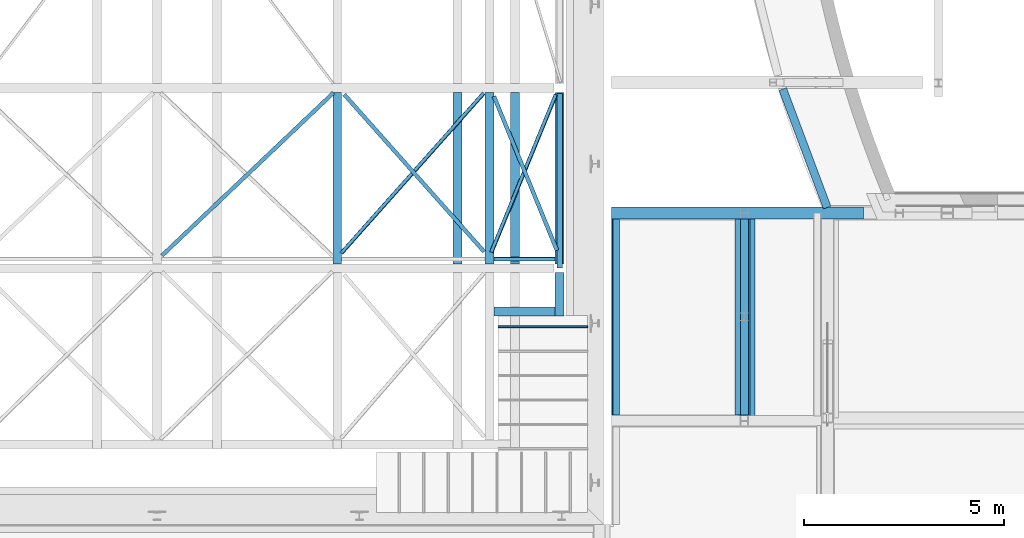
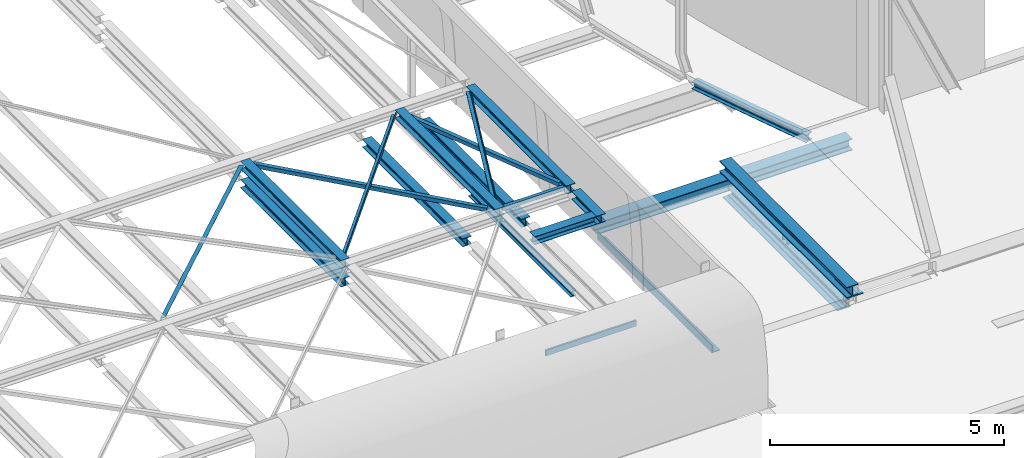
# One storey, part 13 of 38: 21 beams.
"""IFC2X3 building model written with IfcOpenShell, lengths in millimetres."""

import ifcopenshell
import ifcopenshell.guid

model = None  # the IFC model being written
_history = None  # IfcOwnerHistory: only IFC2X3 demands one
_inside = {}  # id of a spatial element -> (the spatial element, [elements in it])
_under = {}  # id of a project, library or spatial element -> (it, [spatial elements below it])
_declared = {}  # id of a project -> (the project, [libraries it declares])
_typed = {}  # id of a type object -> (the type object, [elements of that type])
_made_of = {}  # id of a material, layer set ... -> (it, [elements and type objects made of it])


def new_model(schema):
    """Start an empty IFC model of exactly this schema.

    Asked for "IFC4X3", IfcOpenShell would pick the latest addendum, in which some entities
    have other attributes; the version numbers below select the first issue.
    IFC2X3 requires an IfcOwnerHistory on every rooted entity: one is made here for all.
    """
    global model, _history
    if schema == "IFC4X3":
        model = ifcopenshell.file(schema_version=(4, 3, 0, 0))
    else:
        model = ifcopenshell.file(schema=schema)
    _inside.clear()
    _under.clear()
    _declared.clear()
    _typed.clear()
    _made_of.clear()
    _history = None
    if model.schema == "IFC2X3":
        org = make("IfcOrganization", Name="unknown")
        user = make(
            "IfcPersonAndOrganization",
            ThePerson=make("IfcPerson", FamilyName="unknown"),
            TheOrganization=org,
        )
        app = make(
            "IfcApplication",
            ApplicationDeveloper=org,
            Version="unknown",
            ApplicationFullName="unknown",
            ApplicationIdentifier="unknown",
        )
        _history = make(
            "IfcOwnerHistory",
            OwningUser=user,
            OwningApplication=app,
            ChangeAction="ADDED",
            CreationDate=0,
        )
    return model


def make(cls, **values):
    """One entity of the class cls with the attributes given. An attribute that is None is left unset."""
    return model.create_entity(
        cls, **{name: value for name, value in values.items() if value is not None}
    )


def entity(cls, *values):
    """Any entity or typed value of the class cls, its attributes in the order of the schema. None: left unset."""
    e = model.create_entity(cls)
    for i, value in enumerate(values):
        if value is not None:
            e[i] = value
    return e


def rooted(cls, **values):
    """An entity with a GlobalId (a new one), such as an element, a storey or a relation."""
    return make(cls, GlobalId=ifcopenshell.guid.new(), OwnerHistory=_history, **values)


def si_unit(unit_type, name, prefix=None):
    """IfcSIUnit, for example si_unit("LENGTHUNIT", "METRE", prefix="MILLI")."""
    return make("IfcSIUnit", UnitType=unit_type, Prefix=prefix, Name=name)


def converted_unit(unit_type, name, factor, base, dimensions=None, offset=None):
    """IfcConversionBasedUnit, such as the inch: factor (a typed value) times the base unit."""
    return make(
        "IfcConversionBasedUnit"
        if offset is None
        else "IfcConversionBasedUnitWithOffset",
        ConversionOffset=offset,
        Dimensions=None
        if dimensions is None
        else entity("IfcDimensionalExponents", *dimensions),
        UnitType=unit_type,
        Name=name,
        ConversionFactor=make(
            "IfcMeasureWithUnit", ValueComponent=factor, UnitComponent=base
        ),
    )


def derived_unit(unit_type, elements):
    """IfcDerivedUnit: a product of units, each with its exponent."""
    return make(
        "IfcDerivedUnit",
        Elements=[
            make("IfcDerivedUnitElement", Unit=unit, Exponent=power)
            for unit, power in elements
        ],
        UnitType=unit_type,
    )


def assignment(units):
    """IfcUnitAssignment: the units of a project."""
    return None if units is None else make("IfcUnitAssignment", Units=units)


def point(xyz):
    """IfcCartesianPoint."""
    return None if xyz is None else make("IfcCartesianPoint", Coordinates=xyz)


def direction(xyz):
    """IfcDirection."""
    return None if xyz is None else make("IfcDirection", DirectionRatios=xyz)


def frame(location, z_axis=None, x_axis=None):
    """IfcAxis2Placement3D, a coordinate frame: its origin and axes. An axis left out is left unset."""
    return make(
        "IfcAxis2Placement3D",
        Location=point(location),
        Axis=direction(z_axis),
        RefDirection=direction(x_axis),
    )


def frame_2d(location, x_axis=None):
    """IfcAxis2Placement2D, a coordinate frame in the plane: its origin and x axis."""
    return make(
        "IfcAxis2Placement2D", Location=point(location), RefDirection=direction(x_axis)
    )


def origin():
    """The frame at (0, 0, 0) with its axes left unset."""
    return frame((0.0, 0.0, 0.0))


def place(relative_to, where):
    """IfcLocalPlacement: puts the frame where relative to a parent placement (None: the world)."""
    return make(
        "IfcLocalPlacement", PlacementRelTo=relative_to, RelativePlacement=where
    )


def context(
    kind, dimensions, precision=None, world=None, true_north=None, identifier=None
):
    """IfcGeometricRepresentationContext, for example the 3D "Model" context."""
    return make(
        "IfcGeometricRepresentationContext",
        ContextIdentifier=identifier,
        ContextType=kind,
        CoordinateSpaceDimension=dimensions,
        Precision=precision,
        WorldCoordinateSystem=world,
        TrueNorth=true_north,
    )


def subcontext(parent, identifier, kind, view, scale=None):
    """IfcGeometricRepresentationSubContext, for example "Body" below "Model"."""
    return make(
        "IfcGeometricRepresentationSubContext",
        ContextIdentifier=identifier,
        ContextType=kind,
        ParentContext=parent,
        TargetScale=scale,
        TargetView=view,
    )


def project(units=None, contexts=None):
    """IfcProject with its units and contexts."""
    return rooted(
        "IfcProject",
        Name="project",
        RepresentationContexts=contexts,
        UnitsInContext=assignment(units),
    )


def spatial(cls, under=None, at=None, **own):
    """A site, building, storey or space (cls), placed at a placement, below another one or the project."""
    s = rooted(cls, ObjectPlacement=at, **own)
    if under is not None:
        _under.setdefault(under.id(), (under, []))[1].append(s)
    return s


def polyline(points):
    """IfcPolyline through the points."""
    return make("IfcPolyline", Points=[point(p) for p in points])


def circle_curve(where, radius):
    """IfcCircle in the frame where."""
    return make("IfcCircle", Position=where, Radius=radius)


def parameter(value):
    """IfcParameterValue: where a trimmed curve begins or ends, as a parameter of its basis curve."""
    return model.create_entity("IfcParameterValue", value)


def trimmed(basis, trim1, trim2, sense, master):
    """IfcTrimmedCurve: the piece of a basis curve between two trims."""
    return make(
        "IfcTrimmedCurve",
        BasisCurve=basis,
        Trim1=trim1,
        Trim2=trim2,
        SenseAgreement=sense,
        MasterRepresentation=master,
    )


def segment(curve, same_sense, transition):
    """IfcCompositeCurveSegment."""
    return make(
        "IfcCompositeCurveSegment",
        Transition=transition,
        SameSense=same_sense,
        ParentCurve=curve,
    )


def composite_curve(segments, self_intersect=None):
    """IfcCompositeCurve: segments joined end to end."""
    return make("IfcCompositeCurve", Segments=segments, SelfIntersect=self_intersect)


def profile(cls, at=None, kind="AREA", **sizes):
    """A parametric profile (cls). Its sizes go by their IFC names, for example OverallWidth=200.0."""
    return make(cls, ProfileType=kind, Position=at, **sizes)


def rectangle(**sizes):
    """IfcRectangleProfileDef."""
    return profile("IfcRectangleProfileDef", **sizes)


def i_section(**sizes):
    """IfcIShapeProfileDef."""
    return profile("IfcIShapeProfileDef", **sizes)


def outline(outer, holes=None, kind="AREA"):
    """IfcArbitraryClosedProfileDef: a profile drawn as a closed curve; with holes, ...WithVoids."""
    if holes is None:
        return make("IfcArbitraryClosedProfileDef", ProfileType=kind, OuterCurve=outer)
    return make(
        "IfcArbitraryProfileDefWithVoids",
        ProfileType=kind,
        OuterCurve=outer,
        InnerCurves=holes,
    )


def extrude(swept, where, along, depth):
    """IfcExtrudedAreaSolid: the profile swept, set in the frame where, extruded along a direction by depth."""
    return make(
        "IfcExtrudedAreaSolid",
        SweptArea=swept,
        Position=where,
        ExtrudedDirection=direction(along),
        Depth=depth,
    )


def shape(context_of_items, identifier, shape_type, items):
    """IfcShapeRepresentation: the items that make up one representation, for example the "Body"."""
    return make(
        "IfcShapeRepresentation",
        ContextOfItems=context_of_items,
        RepresentationIdentifier=identifier,
        RepresentationType=shape_type,
        Items=items,
    )


def source(mapping_origin, context_of_items, identifier, shape_type, items):
    """IfcRepresentationMap: a shape defined once, which mapped items show again and again."""
    return make(
        "IfcRepresentationMap",
        MappingOrigin=mapping_origin,
        MappedRepresentation=shape(context_of_items, identifier, shape_type, items),
    )


def transform(
    local_origin,
    x_axis=None,
    y_axis=None,
    z_axis=None,
    scale=None,
    scale2=None,
    scale3=None,
    uniform=True,
):
    """IfcCartesianTransformationOperator3D, or its non-uniform kind. x_axis, y_axis, z_axis: its Axis1, 2, 3."""
    if uniform:
        return make(
            "IfcCartesianTransformationOperator3D",
            Axis1=direction(x_axis),
            Axis2=direction(y_axis),
            LocalOrigin=point(local_origin),
            Scale=scale,
            Axis3=direction(z_axis),
        )
    return make(
        "IfcCartesianTransformationOperator3DnonUniform",
        Axis1=direction(x_axis),
        Axis2=direction(y_axis),
        LocalOrigin=point(local_origin),
        Scale=scale,
        Axis3=direction(z_axis),
        Scale2=scale2,
        Scale3=scale3,
    )


def mapped(mapping_source, mapping_target):
    """IfcMappedItem: shows the shape of a source again, moved by a transform."""
    return make(
        "IfcMappedItem", MappingSource=mapping_source, MappingTarget=mapping_target
    )


def material(Name=None, Category=None):
    """IfcMaterial."""
    return make("IfcMaterial", Name=Name, Category=Category)


def material_list(materials):
    """IfcMaterialList."""
    return make("IfcMaterialList", Materials=materials)


def made_of(thing, what):
    """Note that an element or type object is made of a material, layer set ...; save() writes the relation."""
    if what is not None:
        _made_of.setdefault(what.id(), (what, []))[1].append(thing)
    return thing


def type_object(cls, material=None, **own):
    """A type object (cls), such as IfcWallType, which elements share."""
    return made_of(rooted(cls, **own), material)


def type_shapes(of_type, sources):
    """Give a type object the sources (RepresentationMaps) that its elements show as mapped items."""
    of_type.RepresentationMaps = sources


def element(
    cls,
    number,
    at=None,
    inside=None,
    cuts=None,
    type_object=None,
    material=None,
    context=None,
    identifier="Body",
    shape_type=None,
    held_by="IfcProductDefinitionShape",
    body=None,
    shapes=None,
    **own,
):
    """One element of the class cls, such as IfcWall. Its Tag is "e" and its number.

    at: its placement. inside: the storey or other place that contains it. cuts: it is an
    opening in that element (IfcRelVoidsElement). A single representation is given by context,
    identifier, shape_type and body (its items); several are given by shapes. held_by: the class
    of the entity that holds the representations. save() writes the other relations.
    """
    e = rooted(cls, Tag="e%d" % number, ObjectPlacement=at, **own)
    if body is not None:
        shapes = [shape(context, identifier, shape_type, body)]
    if shapes is not None:
        e.Representation = make(held_by, Representations=shapes)
    if inside is not None:
        _inside.setdefault(inside.id(), (inside, []))[1].append(e)
    if cuts is not None:
        rooted(
            "IfcRelVoidsElement", RelatingBuildingElement=cuts, RelatedOpeningElement=e
        )
    if type_object is not None:
        _typed.setdefault(type_object.id(), (type_object, []))[1].append(e)
    return made_of(e, material)


def aggregate(whole, parts):
    """IfcRelAggregates: a whole, such as a stair, and the parts it consists of."""
    return rooted("IfcRelAggregates", RelatingObject=whole, RelatedObjects=parts)


def save(model, path):
    """Write the relations noted so far, then the file.

    IfcRelAggregates (storeys below a building ...), IfcRelContainedInSpatialStructure (elements
    in a storey), IfcRelDefinesByType, IfcRelAssociatesMaterial and IfcRelDeclares: one each for
    every whole, place, type object, material and project.
    """
    for whole, parts in _under.values():
        aggregate(whole, parts)
    for where, things in _inside.values():
        rooted(
            "IfcRelContainedInSpatialStructure",
            RelatedElements=things,
            RelatingStructure=where,
        )
    for kind, things in _typed.values():
        rooted("IfcRelDefinesByType", RelatedObjects=things, RelatingType=kind)
    for what, things in _made_of.values():
        rooted("IfcRelAssociatesMaterial", RelatedObjects=things, RelatingMaterial=what)
    for by, libraries in _declared.values():
        rooted("IfcRelDeclares", RelatingContext=by, RelatedDefinitions=libraries)
    model.write(path)


model = new_model("IFC2X3")

# Units and contexts
model_context = context("Model", 3, precision=0.01, world=origin(), true_north=direction((6.12303176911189e-17, 1.0)))
body_context = subcontext(model_context, "Body", "Model", "MODEL_VIEW")
ifc_project = project(units=[si_unit("LENGTHUNIT", "METRE", prefix="MILLI"), si_unit("AREAUNIT", "SQUARE_METRE", prefix="MILLI"), si_unit("VOLUMEUNIT", "CUBIC_METRE"), converted_unit("PLANEANGLEUNIT", "DEGREE", entity("IfcRatioMeasure", 0.0174532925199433), si_unit("PLANEANGLEUNIT", "RADIAN"), dimensions=[0, 0, 0, 0, 0, 0, 0]), si_unit("MASSUNIT", "GRAM", prefix="KILO"), derived_unit("MASSDENSITYUNIT", [(si_unit("MASSUNIT", "GRAM", prefix="KILO"), 1), (si_unit("LENGTHUNIT", "METRE"), -3)]), derived_unit("MOMENTOFINERTIAUNIT", [(si_unit("LENGTHUNIT", "METRE"), 4)]), si_unit("TIMEUNIT", "SECOND"), si_unit("FREQUENCYUNIT", "HERTZ"), si_unit("THERMODYNAMICTEMPERATUREUNIT", "DEGREE_CELSIUS"), derived_unit("THERMALTRANSMITTANCEUNIT", [(si_unit("MASSUNIT", "GRAM", prefix="KILO"), 1), (si_unit("THERMODYNAMICTEMPERATUREUNIT", "KELVIN"), -1), (si_unit("TIMEUNIT", "SECOND"), -3)]), derived_unit("VOLUMETRICFLOWRATEUNIT", [(si_unit("LENGTHUNIT", "METRE"), 3), (si_unit("TIMEUNIT", "SECOND"), -1)]), si_unit("ELECTRICCURRENTUNIT", "AMPERE"), si_unit("ELECTRICVOLTAGEUNIT", "VOLT"), si_unit("POWERUNIT", "WATT"), si_unit("FORCEUNIT", "NEWTON", prefix="KILO"), si_unit("ILLUMINANCEUNIT", "LUX"), si_unit("LUMINOUSFLUXUNIT", "LUMEN"), si_unit("LUMINOUSINTENSITYUNIT", "CANDELA"), derived_unit("USERDEFINED", [(si_unit("MASSUNIT", "GRAM", prefix="KILO"), -1), (si_unit("LENGTHUNIT", "METRE"), -2), (si_unit("TIMEUNIT", "SECOND"), 3), (si_unit("LUMINOUSFLUXUNIT", "LUMEN"), 1)]), derived_unit("LINEARVELOCITYUNIT", [(si_unit("LENGTHUNIT", "METRE"), 1), (si_unit("TIMEUNIT", "SECOND"), -1)]), si_unit("PRESSUREUNIT", "PASCAL"), derived_unit("USERDEFINED", [(si_unit("LENGTHUNIT", "METRE"), -2), (si_unit("MASSUNIT", "GRAM", prefix="KILO"), 1), (si_unit("TIMEUNIT", "SECOND"), -2)]), derived_unit("LINEARFORCEUNIT", [(si_unit("MASSUNIT", "GRAM", prefix="KILO"), 1), (si_unit("LENGTHUNIT", "METRE"), 1), (si_unit("TIMEUNIT", "SECOND"), -2), (si_unit("LENGTHUNIT", "METRE"), -1)]), derived_unit("PLANARFORCEUNIT", [(si_unit("MASSUNIT", "GRAM", prefix="KILO"), 1), (si_unit("LENGTHUNIT", "METRE"), 1), (si_unit("TIMEUNIT", "SECOND"), -2), (si_unit("LENGTHUNIT", "METRE"), -2)])], contexts=[model_context])

# Site, building, storey
site_placement = place(None, origin())
site = spatial("IfcSite", under=ifc_project, at=site_placement, Name="Theater aan de Parade", CompositionType="ELEMENT")
building_placement = place(site_placement, origin())
building = spatial("IfcBuilding", under=site, at=building_placement, Name="Theater aan de Parade", CompositionType="ELEMENT")
storey_placement = place(building_placement, frame((0.0, 0.0, 12480.0)))
storey = spatial("IfcBuildingStorey", under=building, at=storey_placement, Name="03 derde verdieping", CompositionType="ELEMENT", Elevation=12480.0)

# Beams
ifc_material_1 = material(Name="00_PBT_MAT_staal_S355")
beam_type_1 = type_object("IfcBeamType", Name="28_PBT_SF_staal_H-profiel:S355_HE220A", PredefinedType="NOTDEFINED")
beam_1_placement = place(storey_placement, frame((36153.8581300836, 23458.2922984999, 1930.0), z_axis=(0.0, 0.0, 1.0), x_axis=(0.0, -1.0, 0.0)))
element("IfcBeam", 1, at=beam_1_placement, inside=storey, type_object=beam_type_1, material=ifc_material_1, Name="28_PBT_SF_staal_H-profiel:S355_HE220A", ObjectType="28_PBT_SF_staal_H-profiel:S355_HE220A", context=body_context, shape_type="SweptSolid", body=[
    extrude(i_section(OverallWidth=219.999999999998, OverallDepth=210.0, WebThickness=7.00000000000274, FlangeThickness=10.9999999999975, FilletRadius=18.0000000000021, at=frame_2d((0.0, 2.16715534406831e-12), x_axis=(0.0, 1.0))), frame((0.0, 0.0, -105.0), z_axis=(1.0, 0.0, 0.0), x_axis=(0.0, 0.0, -1.0)), (0.0, 0.0, 1.0), 4280.00000000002),
])
beam_2_placement = place(storey_placement, frame((36153.8581300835, 18958.2922984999, 1930.0), z_axis=(0.0, 0.0, 1.0), x_axis=(0.0, -1.0, 0.0)))
element("IfcBeam", 2, at=beam_2_placement, inside=storey, type_object=beam_type_1, material=ifc_material_1, Name="28_PBT_SF_staal_H-profiel:S355_HE220A", ObjectType="28_PBT_SF_staal_H-profiel:S355_HE220A", context=body_context, shape_type="SweptSolid", body=[
    extrude(i_section(OverallWidth=220.000000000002, OverallDepth=210.0, WebThickness=7.00000000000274, FlangeThickness=10.9999999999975, FilletRadius=18.0000000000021, at=frame_2d((0.0, 2.16715534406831e-12), x_axis=(0.0, 1.0))), frame((0.0, 0.0, -105.0), z_axis=(1.0, 0.0, 0.0), x_axis=(0.0, 0.0, -1.0)), (0.0, 0.0, 1.0), 1076.98459113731),
])
beam_3_placement = place(storey_placement, frame((36043.8581300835, 17991.3077073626, 1930.0), z_axis=(0.0, 0.0, 1.0), x_axis=(-1.0, 0.0, 0.0)))
element("IfcBeam", 3, at=beam_3_placement, inside=storey, type_object=beam_type_1, material=ifc_material_1, Name="28_PBT_SF_staal_H-profiel:S355_HE220A", ObjectType="28_PBT_SF_staal_H-profiel:S355_HE220A", context=body_context, shape_type="SweptSolid", body=[
    extrude(i_section(OverallWidth=220.000000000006, OverallDepth=210.0, WebThickness=6.99999999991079, FlangeThickness=10.9999999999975, FilletRadius=18.0000000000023, at=frame_2d((0.0, -3.24718030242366e-12), x_axis=(0.0, 1.0))), frame((0.0, 0.0, -105.0), z_axis=(1.0, 0.0, 0.0), x_axis=(0.0, 0.0, -1.0)), (0.0, 0.0, 1.0), 1530.00112758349),
])
beam_4_placement = place(storey_placement, frame((30603.8570025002, 23458.2922984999, 1930.0), z_axis=(0.0, 0.0, 1.0), x_axis=(0.0, -1.0, 0.0)))
element("IfcBeam", 4, at=beam_4_placement, inside=storey, type_object=beam_type_1, material=ifc_material_1, Name="28_PBT_SF_staal_H-profiel:S355_HE220A", ObjectType="28_PBT_SF_staal_H-profiel:S355_HE220A", context=body_context, shape_type="SweptSolid", body=[
    extrude(i_section(OverallWidth=219.999999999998, OverallDepth=210.0, WebThickness=7.00000000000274, FlangeThickness=10.9999999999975, FilletRadius=18.0000000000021, at=frame_2d((0.0, 2.16715534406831e-12), x_axis=(0.0, 1.0))), frame((0.0, 0.0, -105.0), z_axis=(1.0, 0.0, 0.0), x_axis=(0.0, 0.0, -1.0)), (0.0, 0.0, 1.0), 4280.00000000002),
])
beam_5_placement = place(storey_placement, frame((34405.85634631, 23458.2922984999, 1930.0), z_axis=(0.0, 0.0, 1.0), x_axis=(0.0, -1.0, 0.0)))
element("IfcBeam", 5, at=beam_5_placement, inside=storey, type_object=beam_type_1, material=ifc_material_1, Name="28_PBT_SF_staal_H-profiel:S355_HE220A", ObjectType="28_PBT_SF_staal_H-profiel:S355_HE220A", context=body_context, shape_type="SweptSolid", body=[
    extrude(i_section(OverallWidth=219.999999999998, OverallDepth=210.0, WebThickness=7.00000000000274, FlangeThickness=10.9999999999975, FilletRadius=18.0000000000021, at=frame_2d((0.0, -6.50146603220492e-12), x_axis=(0.0, 1.0))), frame((0.0, 0.0, -105.0), z_axis=(1.0, 0.0, 0.0), x_axis=(0.0, 0.0, -1.0)), (0.0, 0.0, 1.0), 4280.00000000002),
])
for number, where, z_axis, x_axis in (
    (6, (35043.8557463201, 23458.2922984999, 1930.0), (0.0, 0.0, 1.0), (0.0, -1.0, 0.0)),
    (7, (30603.8570025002, 23458.2922985, 1930.0), (0.0, 0.0, 1.0), (0.0, -1.0, 0.0)),
):
    element("IfcBeam", number, at=place(storey_placement, frame(where, z_axis=z_axis, x_axis=x_axis)), inside=storey, type_object=beam_type_1, material=ifc_material_1, Name="28_PBT_SF_staal_H-profiel:S355_HE220A", ObjectType="28_PBT_SF_staal_H-profiel:S355_HE220A", context=body_context, shape_type="SweptSolid", body=[
        extrude(i_section(OverallWidth=219.999999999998, OverallDepth=210.0, WebThickness=7.00000000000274, FlangeThickness=10.9999999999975, FilletRadius=18.0000000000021, at=frame_2d((-2.16715534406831e-12, 6.50146603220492e-12), x_axis=(0.0, 1.0))), frame((0.0, 0.0, -585.0), z_axis=(1.0, 0.0, 0.0), x_axis=(0.0, 0.0, -1.0)), (0.0, 0.0, 1.0), 4280.00000000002),
    ])
beam_6_placement = place(storey_placement, frame((33603.8563463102, 23458.2922985, 1930.0), z_axis=(0.0, 0.0, 1.0), x_axis=(0.0, -1.0, 0.0)))
element("IfcBeam", 8, at=beam_6_placement, inside=storey, type_object=beam_type_1, material=ifc_material_1, Name="28_PBT_SF_staal_H-profiel:S355_HE220A", ObjectType="28_PBT_SF_staal_H-profiel:S355_HE220A", context=body_context, shape_type="SweptSolid", body=[
    extrude(i_section(OverallWidth=219.999999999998, OverallDepth=210.0, WebThickness=7.00000000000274, FlangeThickness=10.9999999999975, FilletRadius=18.0000000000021, at=frame_2d((-2.16715534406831e-12, 2.16715534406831e-12), x_axis=(0.0, 1.0))), frame((0.0, 0.0, -585.0), z_axis=(1.0, 0.0, 0.0), x_axis=(0.0, 0.0, -1.0)), (0.0, 0.0, 1.0), 4280.00000000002),
])
beam_type_2 = type_object("IfcBeamType", Name="28_PBT_SF_staal_H-profiel:S355_HE140A", PredefinedType="NOTDEFINED")
beam_7_placement = place(storey_placement, frame((36153.8581300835, 19068.2922984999, 0.0), z_axis=(0.0, 0.0, 1.0), x_axis=(0.0, 1.0, 0.0)))
element("IfcBeam", 9, at=beam_7_placement, inside=storey, type_object=beam_type_2, material=ifc_material_1, Name="28_PBT_SF_staal_H-profiel:S355_HE140A", ObjectType="28_PBT_SF_staal_H-profiel:S355_HE140A", context=body_context, shape_type="SweptSolid", body=[
    extrude(outline(composite_curve([segment(polyline([(58.0, -70.0), (66.4999999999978, -70.0)]), True, "CONTINUOUS"), segment(polyline([(66.4999999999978, -70.0), (66.4999999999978, 70.0)]), True, "CONTINUOUS"), segment(polyline([(66.4999999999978, 70.0), (58.0, 70.0)]), True, "CONTINUOUS"), segment(polyline([(58.0, 70.0), (58.0, 14.750000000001)]), True, "CONTINUOUS"), segment(trimmed(circle_curve(frame_2d((46.0, 14.7500000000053), x_axis=(1.0, 0.0)), 12.0000000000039), [parameter(270.000000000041)], [parameter(0.0)], True, "PARAMETER"), False, "CONTINUOUS"), segment(polyline([(46.0, 2.75000000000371), (-46.0, 2.75000000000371)]), True, "CONTINUOUS"), segment(trimmed(circle_curve(frame_2d((-46.0, 14.7500000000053), x_axis=(0.0, -1.0)), 12.0000000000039), [parameter(270.000000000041)], [parameter(0.0)], True, "PARAMETER"), False, "CONTINUOUS"), segment(polyline([(-58.0, 14.750000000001), (-58.0, 70.0)]), True, "CONTINUOUS"), segment(polyline([(-58.0, 70.0), (-66.5000000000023, 70.0)]), True, "CONTINUOUS"), segment(polyline([(-66.5000000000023, 70.0), (-66.5000000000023, -70.0)]), True, "CONTINUOUS"), segment(polyline([(-66.5000000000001, -70.0), (-58.0, -70.0)]), True, "CONTINUOUS"), segment(polyline([(-58.0, -70.0), (-58.0, -14.7499999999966)]), True, "CONTINUOUS"), segment(trimmed(circle_curve(frame_2d((-46.0, -14.750000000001), x_axis=(-1.0, 0.0)), 12.0000000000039), [parameter(270.000000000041)], [parameter(0.0)], True, "PARAMETER"), False, "CONTINUOUS"), segment(polyline([(-46.0, -2.74999999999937), (46.0, -2.74999999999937)]), True, "CONTINUOUS"), segment(trimmed(circle_curve(frame_2d((46.0, -14.750000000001), x_axis=(0.0, 1.0)), 12.0000000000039), [parameter(270.000000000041)], [parameter(0.0)], True, "PARAMETER"), False, "CONTINUOUS"), segment(polyline([(58.0, -14.7499999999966), (58.0, -70.0)]), True, "CONTINUOUS")], self_intersect=False)), frame((0.0, 0.0, -846.500000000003), z_axis=(1.0, 0.0, 0.0), x_axis=(0.0, 0.0, -1.0)), (0.0, 0.0, 1.0), 4360.00000000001),
])
beam_type_3 = type_object("IfcBeamType", Name="28_PBT_SF_staal_H-profiel:S355_HE300B", PredefinedType="NOTDEFINED")
beam_8_placement = place(storey_placement, frame((37453.8581300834, 20445.0, 0.0)))
element("IfcBeam", 10, at=beam_8_placement, inside=storey, type_object=beam_type_3, material=ifc_material_1, Name="28_PBT_SF_staal_H-profiel:S355_HE300B", ObjectType="28_PBT_SF_staal_H-profiel:S355_HE300B", context=body_context, shape_type="SweptSolid", body=[
    extrude(i_section(OverallWidth=300.000000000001, OverallDepth=300.000000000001, WebThickness=11.0000000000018, FlangeThickness=18.9999999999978, FilletRadius=26.9999999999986, at=frame_2d((-2.17426077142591e-12, -2.1600499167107e-12), x_axis=(0.0, 1.0))), frame((0.0, 0.0, -355.0), z_axis=(1.0, 0.0, 0.0), x_axis=(0.0, 0.0, -1.0)), (0.0, 0.0, 1.0), 6283.5510333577),
])
beam_type_4 = type_object("IfcBeamType", Name="28_PBT_SF_staal_L-profiel:S355_L200x200x20", PredefinedType="NOTDEFINED")
beam_9_placement = place(storey_placement, frame((37510.6581300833, 15409.4841107, 0.0), z_axis=(0.0, 0.0, 1.0), x_axis=(0.0, 1.0, 0.0)))
element("IfcBeam", 11, at=beam_9_placement, inside=storey, type_object=beam_type_4, material=ifc_material_1, Name="28_PBT_SF_staal_L-profiel:S355_L200x200x20", ObjectType="28_PBT_SF_staal_L-profiel:S355_L200x200x20", context=body_context, shape_type="SweptSolid", body=[
    extrude(outline(composite_curve([segment(polyline([(64.5555555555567, -124.444444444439), (75.5555555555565, -124.444444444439)]), True, "CONTINUOUS"), segment(polyline([(75.5555555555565, -124.444444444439), (75.5555555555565, 75.5555555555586)]), True, "CONTINUOUS"), segment(polyline([(75.5555555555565, 75.5555555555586), (-124.444444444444, 75.5555555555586)]), True, "CONTINUOUS"), segment(polyline([(-124.444444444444, 75.5555555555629), (-124.444444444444, 64.5555555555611)]), True, "CONTINUOUS"), segment(trimmed(circle_curve(frame_2d((-115.444444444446, 64.5555555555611), x_axis=(-1.0, 0.0)), 8.99999999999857), [parameter(0.0)], [parameter(90.0000000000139)], True, "PARAMETER"), True, "CONTINUOUS"), segment(polyline([(-115.444444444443, 55.5555555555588), (37.5555555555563, 55.5555555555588)]), True, "CONTINUOUS"), segment(trimmed(circle_curve(frame_2d((37.5555555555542, 37.5555555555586), x_axis=(0.0, 1.0)), 18.0000000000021), [parameter(270.000000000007)], [parameter(0.0)], True, "PARAMETER"), False, "CONTINUOUS"), segment(polyline([(55.5555555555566, 37.5555555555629), (55.5555555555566, -115.444444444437)]), True, "CONTINUOUS"), segment(trimmed(circle_curve(frame_2d((64.5555555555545, -115.444444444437), x_axis=(-1.0, 0.0)), 8.99999999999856), [parameter(0.0)], [parameter(90.0000000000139)], True, "PARAMETER"), True, "CONTINUOUS")], self_intersect=False)), frame((0.0, -18.7555555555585, -549.444444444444), z_axis=(1.0, 0.0, 0.0), x_axis=(0.0, 0.0, -1.0)), (0.0, 0.0, 1.0), 4885.51588929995),
])
beam_type_5 = type_object("IfcBeamType", Name="28_PBT_SF_staal_H-profiel:S355_HE200A", PredefinedType="NOTDEFINED")
beam_10_placement = place(storey_placement, frame((42832.2294768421, 20582.8851396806, 0.0), z_axis=(0.0, 0.0, 1.0), x_axis=(-0.350820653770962, 0.936442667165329, 0.0)))
element("IfcBeam", 12, at=beam_10_placement, inside=storey, type_object=beam_type_5, material=ifc_material_1, Name="28_PBT_SF_staal_H-profiel:S355_HE200A", ObjectType="28_PBT_SF_staal_H-profiel:S355_HE200A", context=body_context, shape_type="SweptSolid", body=[
    extrude(outline(composite_curve([segment(polyline([(85.0, -100.0), (95.0, -100.0)]), True, "CONTINUOUS"), segment(polyline([(95.0, -100.0), (95.0, 100.0)]), True, "CONTINUOUS"), segment(polyline([(95.0, 100.0), (85.0, 100.0)]), True, "CONTINUOUS"), segment(polyline([(85.0, 100.0), (85.0, 21.2500000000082)]), True, "CONTINUOUS"), segment(trimmed(circle_curve(frame_2d((67.0, 21.2500000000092), x_axis=(1.0, 0.0)), 18.0000000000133), [parameter(270.000000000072)], [parameter(0.0)], True, "PARAMETER"), False, "CONTINUOUS"), segment(polyline([(67.0, 3.25000000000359), (-67.0, 3.25000000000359)]), True, "CONTINUOUS"), segment(trimmed(circle_curve(frame_2d((-67.0, 21.2500000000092), x_axis=(0.0, -1.0)), 18.0000000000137), [parameter(270.000000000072)], [parameter(0.0)], True, "PARAMETER"), False, "CONTINUOUS"), segment(polyline([(-85.0, 21.2499999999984), (-85.0, 100.0)]), True, "CONTINUOUS"), segment(polyline([(-85.0, 100.0), (-95.0, 100.0)]), True, "CONTINUOUS"), segment(polyline([(-95.0, 100.0), (-95.0, -100.0)]), True, "CONTINUOUS"), segment(polyline([(-95.0, -100.0), (-85.0, -100.0)]), True, "CONTINUOUS"), segment(polyline([(-85.0, -100.0), (-85.0, -21.2499999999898)]), True, "CONTINUOUS"), segment(trimmed(circle_curve(frame_2d((-67.0, -21.2499999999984), x_axis=(-1.0, 0.0)), 18.0000000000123), [parameter(270.00000000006)], [parameter(0.0)], True, "PARAMETER"), False, "CONTINUOUS"), segment(polyline([(-67.0, -3.24999999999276), (67.0, -3.24999999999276)]), True, "CONTINUOUS"), segment(trimmed(circle_curve(frame_2d((67.0, -21.2499999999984), x_axis=(0.0, 1.0)), 18.0000000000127), [parameter(270.00000000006)], [parameter(0.0)], True, "PARAMETER"), False, "CONTINUOUS"), segment(polyline([(85.0, -21.2499999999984), (85.0, -100.0)]), True, "CONTINUOUS")], self_intersect=False)), frame((0.0, 0.0, -25.0), z_axis=(1.0, 0.0, 0.0), x_axis=(0.0, 0.0, -1.0)), (0.0, 0.0, 1.0), 3160.00000000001),
])
beam_type_6 = type_object("IfcBeamType", Name="28_PBT_SF_staal_L-profiel:S355_L100x100x10", PredefinedType="NOTDEFINED")
beam_11_placement = place(storey_placement, frame((26103.8570025, 19296.2906196, 1930.0), z_axis=(0.0, 0.0, 1.0), x_axis=(0.725240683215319, 0.68849542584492, 0.0)))
element("IfcBeam", 13, at=beam_11_placement, inside=storey, type_object=beam_type_6, material=ifc_material_1, Name="28_PBT_SF_staal_L-profiel:S355_L100x100x10", ObjectType="28_PBT_SF_staal_L-profiel:S355_L100x100x10", context=body_context, shape_type="SweptSolid", body=[
    extrude(outline(composite_curve([segment(polyline([(-37.7777777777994, -62.222222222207), (-33.7777777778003, -62.2222222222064)]), True, "CONTINUOUS"), segment(trimmed(circle_curve(frame_2d((-33.777777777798, -56.2222222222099), x_axis=(0.0, -1.0)), 6.00000000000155), [parameter(0.0)], [parameter(90.0000000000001)], True, "PARAMETER"), True, "CONTINUOUS"), segment(polyline([(-27.7777777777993, -56.2222222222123), (-27.7777777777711, 15.7777777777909)]), True, "CONTINUOUS"), segment(trimmed(circle_curve(frame_2d((-15.7777777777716, 15.7777777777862), x_axis=(-1.0, 0.0)), 11.9999999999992), [parameter(270.0)], [parameter(0.0)], True, "PARAMETER"), False, "CONTINUOUS"), segment(polyline([(-15.7777777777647, 27.7777777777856), (56.222222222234, 27.7777777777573)]), True, "CONTINUOUS"), segment(trimmed(circle_curve(frame_2d((56.2222222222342, 33.7777777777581), x_axis=(0.0, -1.0)), 6.00000000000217), [parameter(0.0)], [parameter(89.9999999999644)], True, "PARAMETER"), True, "CONTINUOUS"), segment(polyline([(62.222222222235, 33.7777777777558), (62.2222222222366, 37.777777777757)]), True, "CONTINUOUS"), segment(polyline([(62.2222222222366, 37.777777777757), (-37.7777777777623, 37.7777777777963)]), True, "CONTINUOUS"), segment(polyline([(-37.7777777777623, 37.7777777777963), (-37.7777777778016, -62.2222222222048)]), True, "CONTINUOUS")], self_intersect=False)), frame((150.0, -9.57777777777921, -144.577777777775), z_axis=(1.0, 0.0, 0.0), x_axis=(0.0, 0.0, -1.0)), (0.0, 0.0, 1.0), 5904.8366895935),
])
beam_12_placement = place(storey_placement, frame((34405.85634631, 23568.2922984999, 1930.0), z_axis=(0.0, 0.0, 1.0), x_axis=(-0.664819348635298, -0.747004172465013, 0.0)))
element("IfcBeam", 14, at=beam_12_placement, inside=storey, type_object=beam_type_6, material=ifc_material_1, Name="28_PBT_SF_staal_L-profiel:S355_L100x100x10", ObjectType="28_PBT_SF_staal_L-profiel:S355_L100x100x10", context=body_context, shape_type="SweptSolid", body=[
    extrude(outline(composite_curve([segment(polyline([(33.7777777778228, -62.2222222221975), (37.7777777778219, -62.2222222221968)]), True, "CONTINUOUS"), segment(polyline([(37.7777777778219, -62.2222222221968), (37.7777777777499, 37.7777777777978)]), True, "CONTINUOUS"), segment(polyline([(37.7777777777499, 37.7777777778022), (-62.222222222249, 37.7777777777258)]), True, "CONTINUOUS"), segment(polyline([(-62.222222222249, 37.7777777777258), (-62.2222222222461, 33.7777777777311)]), True, "CONTINUOUS"), segment(trimmed(circle_curve(frame_2d((-56.2222222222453, 33.7777777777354), x_axis=(-1.0, 0.0)), 6.00000000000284), [parameter(0.0)], [parameter(89.9999999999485)], True, "PARAMETER"), True, "CONTINUOUS"), segment(polyline([(-56.2222222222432, 27.7777777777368), (15.7777777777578, 27.7777777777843)]), True, "CONTINUOUS"), segment(trimmed(circle_curve(frame_2d((15.7777777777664, 15.777777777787), x_axis=(0.0, 1.0)), 11.9999999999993), [parameter(270.0)], [parameter(0.0)], True, "PARAMETER"), False, "CONTINUOUS"), segment(polyline([(27.7777777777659, 15.7777777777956), (27.7777777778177, -56.2222222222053)]), True, "CONTINUOUS"), segment(trimmed(circle_curve(frame_2d((33.7777777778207, -56.2222222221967), x_axis=(-1.0, 0.0)), 6.00000000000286), [parameter(0.0)], [parameter(89.9999999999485)], True, "PARAMETER"), True, "CONTINUOUS")], self_intersect=False)), frame((190.6608428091, -9.57777777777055, -67.2222222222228), z_axis=(1.0, 0.0, 0.0), x_axis=(0.0, 0.0, -1.0)), (0.0, 0.0, 1.0), 5352.23322149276),
])
beam_13_placement = place(storey_placement, frame((30603.8563463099, 23568.2922984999, 1930.0), z_axis=(0.0, 0.0, 1.0), x_axis=(0.664819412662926, -0.74700411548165, 0.0)))
element("IfcBeam", 15, at=beam_13_placement, inside=storey, type_object=beam_type_6, material=ifc_material_1, Name="28_PBT_SF_staal_L-profiel:S355_L100x100x10", ObjectType="28_PBT_SF_staal_L-profiel:S355_L100x100x10", context=body_context, shape_type="SweptSolid", body=[
    extrude(outline(composite_curve([segment(polyline([(-37.7777777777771, -37.7777777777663), (62.2222222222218, -37.7777777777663)]), True, "CONTINUOUS"), segment(polyline([(62.2222222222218, -37.7777777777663), (62.2222222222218, -33.777777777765)]), True, "CONTINUOUS"), segment(trimmed(circle_curve(frame_2d((56.2222222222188, -33.7777777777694), x_axis=(1.0, 0.0)), 6.00000000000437), [parameter(0.0)], [parameter(89.9999999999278)], True, "PARAMETER"), True, "CONTINUOUS"), segment(polyline([(56.2222222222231, -27.7777777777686), (-15.7777777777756, -27.7777777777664)]), True, "CONTINUOUS"), segment(trimmed(circle_curve(frame_2d((-15.7777777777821, -15.7777777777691), x_axis=(0.0, -1.0)), 11.9999999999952), [parameter(269.999999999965)], [parameter(0.0)], True, "PARAMETER"), False, "CONTINUOUS"), segment(polyline([(-27.7777777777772, -15.777777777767), (-27.7777777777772, 56.2222222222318)]), True, "CONTINUOUS"), segment(trimmed(circle_curve(frame_2d((-33.7777777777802, 56.2222222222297), x_axis=(1.0, 0.0)), 6.00000000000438), [parameter(0.0)], [parameter(89.9999999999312)], True, "PARAMETER"), True, "CONTINUOUS"), segment(polyline([(-33.7777777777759, 62.2222222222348), (-37.777777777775, 62.2222222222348)]), True, "CONTINUOUS"), segment(polyline([(-37.7777777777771, 62.2222222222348), (-37.7777777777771, -37.7777777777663)]), True, "CONTINUOUS")], self_intersect=False)), frame((235.529860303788, 9.57777777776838, -144.577777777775), z_axis=(1.0, 0.0, 0.0), x_axis=(0.0, 0.0, -1.0)), (0.0, 0.0, 1.0), 5257.52905826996),
])
beam_14_placement = place(storey_placement, frame((36153.8581300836, 23568.2922984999, 1930.0), z_axis=(0.0, 0.0, 1.0), x_axis=(-0.378700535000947, -0.925519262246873, 0.0)))
element("IfcBeam", 16, at=beam_14_placement, inside=storey, type_object=beam_type_6, material=ifc_material_1, Name="28_PBT_SF_staal_L-profiel:S355_L100x100x10", ObjectType="28_PBT_SF_staal_L-profiel:S355_L100x100x10", context=body_context, shape_type="SweptSolid", body=[
    extrude(outline(composite_curve([segment(polyline([(33.777777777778, -62.2222222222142), (37.7777777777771, -62.2222222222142)]), True, "CONTINUOUS"), segment(polyline([(37.7777777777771, -62.2222222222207), (37.7777777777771, 37.7777777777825)]), True, "CONTINUOUS"), segment(polyline([(37.7777777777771, 37.7777777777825), (-62.2222222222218, 37.7777777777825)]), True, "CONTINUOUS"), segment(polyline([(-62.2222222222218, 37.7777777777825), (-62.2222222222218, 33.7777777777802)]), True, "CONTINUOUS"), segment(trimmed(circle_curve(frame_2d((-56.222222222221, 33.7777777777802), x_axis=(-1.0, 0.0)), 6.00000000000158), [parameter(0.0)], [parameter(89.9999999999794)], True, "PARAMETER"), True, "CONTINUOUS"), segment(polyline([(-56.2222222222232, 27.7777777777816), (15.7777777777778, 27.7777777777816)]), True, "CONTINUOUS"), segment(trimmed(circle_curve(frame_2d((15.7777777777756, 15.777777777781), x_axis=(0.0, 1.0)), 12.0000000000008), [parameter(270.00000000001)], [parameter(0.0)], True, "PARAMETER"), False, "CONTINUOUS"), segment(polyline([(27.7777777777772, 15.777777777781), (27.7777777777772, -56.2222222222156)]), True, "CONTINUOUS"), segment(trimmed(circle_curve(frame_2d((33.777777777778, -56.2222222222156), x_axis=(-1.0, 0.0)), 6.00000000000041), [parameter(0.0)], [parameter(90.0000000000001)], True, "PARAMETER"), True, "CONTINUOUS")], self_intersect=False)), frame((190.660842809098, -9.57777777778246, -67.2222222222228), z_axis=(1.0, 0.0, 0.0), x_axis=(0.0, 0.0, -1.0)), (0.0, 0.0, 1.0), 4249.17646818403),
])
beam_15_placement = place(storey_placement, frame((34405.8587869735, 23568.2922984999, 1930.0), z_axis=(0.0, 0.0, 1.0), x_axis=(0.378700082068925, -0.925519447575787, 0.0)))
element("IfcBeam", 17, at=beam_15_placement, inside=storey, type_object=beam_type_6, material=ifc_material_1, Name="28_PBT_SF_staal_L-profiel:S355_L100x100x10", ObjectType="28_PBT_SF_staal_L-profiel:S355_L100x100x10", context=body_context, shape_type="SweptSolid", body=[
    extrude(outline(composite_curve([segment(polyline([(-37.7777777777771, -37.777777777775), (62.2222222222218, -37.777777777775)]), True, "CONTINUOUS"), segment(polyline([(62.2222222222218, -37.777777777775), (62.2222222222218, -33.7777777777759)]), True, "CONTINUOUS"), segment(trimmed(circle_curve(frame_2d((56.2222222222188, -33.7777777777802), x_axis=(1.0, 0.0)), 6.00000000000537), [parameter(0.0)], [parameter(89.9999999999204)], True, "PARAMETER"), True, "CONTINUOUS"), segment(polyline([(56.2222222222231, -27.777777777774), (-15.7777777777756, -27.777777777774)]), True, "CONTINUOUS"), segment(trimmed(circle_curve(frame_2d((-15.7777777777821, -15.7777777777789), x_axis=(0.0, -1.0)), 11.9999999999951), [parameter(269.99999999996)], [parameter(0.0)], True, "PARAMETER"), False, "CONTINUOUS"), segment(polyline([(-27.7777777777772, -15.7777777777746), (-27.7777777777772, 56.222222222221)]), True, "CONTINUOUS"), segment(trimmed(circle_curve(frame_2d((-33.7777777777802, 56.2222222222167), x_axis=(1.0, 0.0)), 6.00000000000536), [parameter(0.0)], [parameter(89.9999999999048)], True, "PARAMETER"), True, "CONTINUOUS"), segment(polyline([(-33.7777777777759, 62.222222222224), (-37.777777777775, 62.222222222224)]), True, "CONTINUOUS"), segment(polyline([(-37.7777777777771, 62.222222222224), (-37.7777777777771, -37.777777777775)]), True, "CONTINUOUS")], self_intersect=False)), frame((235.529860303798, 9.57777777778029, -144.577777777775), z_axis=(1.0, 0.0, 0.0), x_axis=(0.0, 0.0, -1.0)), (0.0, 0.0, 1.0), 4154.47094443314),
])
ifc_material_2 = material(Name="00_PBT_MAT_Lucht")
ifc_material_list_1 = material_list([ifc_material_2, ifc_material_1])
beam_type_7 = type_object("IfcBeamType", Name="28_PBT_SF_staal_H-profiel_met_ondergelaste_strip (void):S355_HE280B + ondergelaste strip d=15", PredefinedType="BEAM", material=ifc_material_list_1)
shared_shape_1 = source(origin(), body_context, "Body", "SweptSolid", [
    extrude(i_section(OverallWidth=279.999999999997, OverallDepth=279.999999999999, WebThickness=10.4999999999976, FlangeThickness=18.0000000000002, FilletRadius=24.0000000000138, at=frame_2d((-4.32009983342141e-12, 0.0), x_axis=(1.0, 0.0))), frame((40762.74392317, 20585.0, 12475.0), z_axis=(0.0, -1.0, 0.0), x_axis=(-1.0, 0.0, 0.0)), (0.0, 0.0, 1.0), 5445.51588929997),
    extrude(rectangle(XDim=15.0000000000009, YDim=399.999999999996, at=frame_2d((0.0, -1.08268949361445e-12), x_axis=(0.0, 1.0))), frame((40827.74392317, 20584.0, 12327.5), z_axis=(0.0, -1.0, 0.0), x_axis=(-1.0, 0.0, 0.0)), (0.0, 0.0, 1.0), 5443.51588929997),
])
type_shapes(beam_type_7, [shared_shape_1])
beam_16_placement = place(storey_placement, frame((0.0, 0.0, -12480.0)))
element("IfcBeam", 18, at=beam_16_placement, inside=storey, type_object=beam_type_7, material=ifc_material_1, Name="28_PBT_SF_staal_H-profiel_met_ondergelaste_strip (void):S355_HE280B + ondergelaste strip d=15", ObjectType="28_PBT_SF_staal_H-profiel_met_ondergelaste_strip (void):S355_HE280B + ondergelaste strip d=15", context=body_context, shape_type="MappedRepresentation", body=[
    mapped(shared_shape_1, transform((0.0, 0.0, 0.0), scale=1.0)),
])
ifc_material_list_2 = material_list([ifc_material_1, ifc_material_2])
beam_type_8 = type_object("IfcBeamType", Name="28_PBT_SF_staal_H-profiel_met_ondergelaste_strip (void):S355_HE200B + ondergelaste strip d=12", PredefinedType="BEAM", material=ifc_material_list_2)
shared_shape_2 = source(origin(), body_context, "Body", "SweptSolid", [
    extrude(i_section(OverallWidth=200.000000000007, OverallDepth=200.0, WebThickness=8.99999999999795, FlangeThickness=14.9999999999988, FilletRadius=17.9999999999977, at=frame_2d((1.29958266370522e-11, 1.08713038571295e-12), x_axis=(1.0, 0.0))), frame((40762.74392317, 20295.0, 11980.0), z_axis=(0.0, -1.0, 0.0), x_axis=(-1.0, 0.0, 0.0)), (0.0, 0.0, 1.0), 4885.51588929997),
    extrude(rectangle(XDim=11.9999999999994, YDim=319.999999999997, at=frame_2d((0.0, -1.0831335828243e-12), x_axis=(0.0, 1.0))), frame((40697.74392317, 20294.0, 11874.0), z_axis=(0.0, -1.0, 0.0), x_axis=(-1.0, 0.0, 0.0)), (0.0, 0.0, 1.0), 4883.51588929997),
])
type_shapes(beam_type_8, [shared_shape_2])
beam_17_placement = place(storey_placement, frame((0.0, 0.0, -12480.0)))
element("IfcBeam", 19, at=beam_17_placement, inside=storey, type_object=beam_type_8, material=ifc_material_1, Name="28_PBT_SF_staal_H-profiel_met_ondergelaste_strip (void):S355_HE200B + ondergelaste strip d=12", ObjectType="28_PBT_SF_staal_H-profiel_met_ondergelaste_strip (void):S355_HE200B + ondergelaste strip d=12", context=body_context, shape_type="MappedRepresentation", body=[
    mapped(shared_shape_2, transform((0.0, 0.0, 0.0), scale=1.0)),
])
ifc_material_3 = material(Name="00_PBT_MAT_hout")
beam_type_9 = type_object("IfcBeamType", Name="28_PBT_SF_rechthoekig hout:46x146", PredefinedType="NOTDEFINED")
beam_18_placement = place(storey_placement, frame((36853.8581300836, 17609.2906236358, 0.0), z_axis=(0.0, 0.0, 1.0), x_axis=(-1.0, 0.0, 0.0)))
element("IfcBeam", 20, at=beam_18_placement, inside=storey, type_object=beam_type_9, material=ifc_material_3, Name="28_PBT_SF_rechthoekig hout:46x146", ObjectType="28_PBT_SF_rechthoekig hout:46x146", context=body_context, shape_type="SweptSolid", body=[
    extrude(rectangle(XDim=146.000000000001, YDim=46.0000000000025, at=frame_2d((-1.08002495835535e-12, 7.57971463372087e-12), x_axis=(1.0, 0.0))), frame((0.0, 0.0, -957.0), z_axis=(1.0, 0.0, 0.0), x_axis=(0.0, 0.0, -1.0)), (0.0, 0.0, 1.0), 2232.99983011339),
])
beam_type_10 = type_object("IfcBeamType", Name="28_PBT_SF_staal_koker:S355_K100x100x8", PredefinedType="NOTDEFINED")
beam_19_placement = place(storey_placement, frame((34515.85634631, 19296.2906195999, 1930.0)))
element("IfcBeam", 21, at=beam_19_placement, inside=storey, type_object=beam_type_10, material=ifc_material_1, Name="28_PBT_SF_staal_koker:S355_K100x100x8", ObjectType="28_PBT_SF_staal_koker:S355_K100x100x8", context=body_context, shape_type="SweptSolid", body=[
    extrude(outline(composite_curve([segment(polyline([(-38.0, -50.0), (38.0, -50.0)]), True, "CONTINUOUS"), segment(trimmed(circle_curve(frame_2d((38.0, -38.0), x_axis=(0.0, 1.0)), 12.0), [parameter(180.0)], [parameter(270.0)], True, "PARAMETER"), True, "CONTINUOUS"), segment(polyline([(50.0, -38.0), (50.0, 38.0)]), True, "CONTINUOUS"), segment(trimmed(circle_curve(frame_2d((38.0, 38.0), x_axis=(0.0, 1.0)), 12.0), [parameter(270.0)], [parameter(360.0)], True, "PARAMETER"), True, "CONTINUOUS"), segment(polyline([(38.0, 50.0), (-38.0, 50.0)]), True, "CONTINUOUS"), segment(trimmed(circle_curve(frame_2d((-38.0, 38.0), x_axis=(0.0, 1.0)), 12.0), [parameter(0.0)], [parameter(90.0000000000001)], True, "PARAMETER"), True, "CONTINUOUS"), segment(polyline([(-50.0, 38.0), (-50.0, -38.0)]), True, "CONTINUOUS"), segment(trimmed(circle_curve(frame_2d((-38.0, -38.0), x_axis=(0.0, 1.0)), 12.0), [parameter(90.0)], [parameter(180.0)], True, "PARAMETER"), True, "CONTINUOUS")], self_intersect=False), holes=[composite_curve([segment(polyline([(42.0, 34.0), (42.0, -34.0)]), True, "CONTINUOUS"), segment(trimmed(circle_curve(frame_2d((34.0, -34.0), x_axis=(0.0, 1.0)), 8.0), [parameter(180.0)], [parameter(270.0)], True, "PARAMETER"), False, "CONTINUOUS"), segment(polyline([(34.0, -42.0), (-34.0, -42.0)]), True, "CONTINUOUS"), segment(trimmed(circle_curve(frame_2d((-34.0, -34.0), x_axis=(0.0, 1.0)), 8.0), [parameter(90.0)], [parameter(180.0)], True, "PARAMETER"), False, "CONTINUOUS"), segment(polyline([(-42.0, -34.0), (-42.0, 34.0)]), True, "CONTINUOUS"), segment(trimmed(circle_curve(frame_2d((-34.0, 34.0), x_axis=(0.0, 1.0)), 8.0), [parameter(3.56222124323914e-13)], [parameter(90.0000000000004)], True, "PARAMETER"), False, "CONTINUOUS"), segment(polyline([(-34.0, 42.0), (34.0, 42.0)]), True, "CONTINUOUS"), segment(trimmed(circle_curve(frame_2d((34.0, 34.0), x_axis=(0.0, 1.0)), 8.0), [parameter(270.0)], [parameter(5.08888749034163e-14)], True, "PARAMETER"), False, "CONTINUOUS")], self_intersect=False)]), frame((0.0, 0.0, -110.0), z_axis=(1.0, 0.0, 0.0), x_axis=(0.0, 0.0, 1.0)), (0.0, 0.0, 1.0), 1528.00178377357),
])

save(model, "model.ifc")
